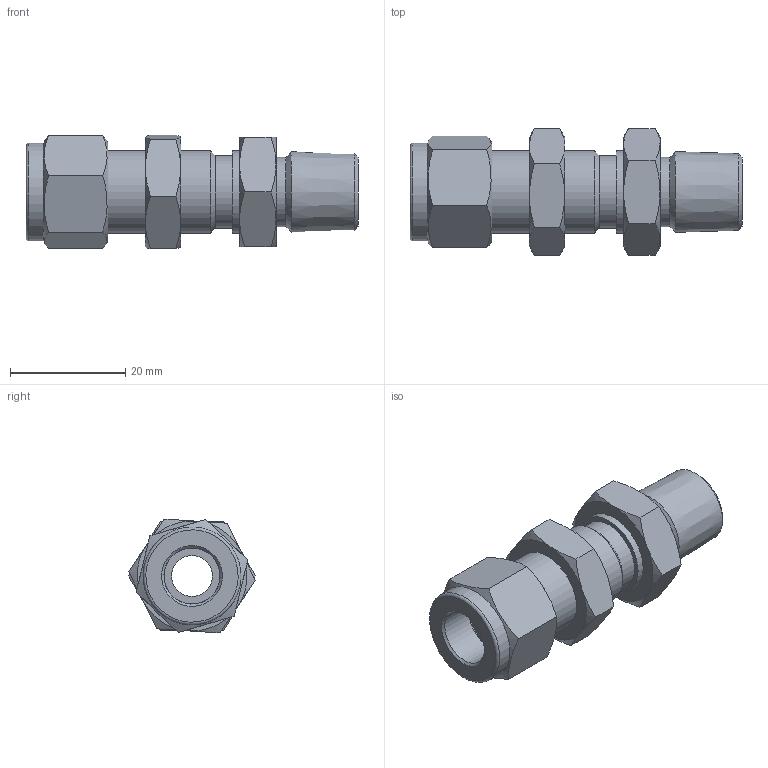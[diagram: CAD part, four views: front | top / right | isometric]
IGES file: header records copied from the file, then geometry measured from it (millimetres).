
Global section: file name: No Iges File Name specified; native system: Autodesk Inventor 2012; preprocessor: AutoDesk Inventor Iges Exporter R2012; author: 硅己绕,, ; organization: 11; date: 20150603.092522; units: millimetre
Bounding box: 57.51 x 22 x 19.73 mm (x, y, z)
Volume: 8947 mm3; surface area: 6729.7 mm2
Topology: 3 solids, 3 shells, 76 faces, 155 edges, 91 vertices
Faces by surface type: cone 31, plane 30, revolution 8, cylinder 6, torus 1
Full cylindrical faces by diameter (mm): 12 x1, 12.5 x1, 12.55 x1, 14.28 x2, 17 x1
